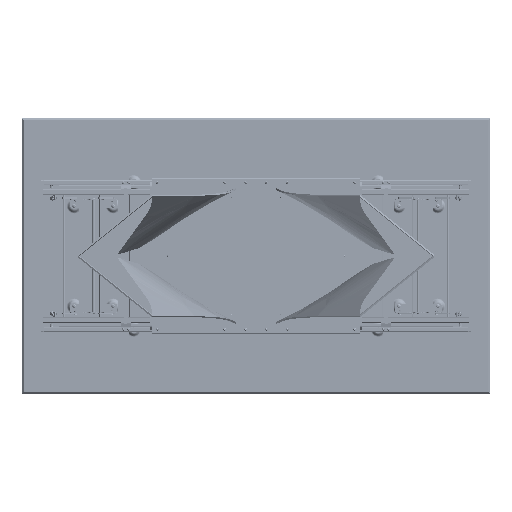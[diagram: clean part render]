
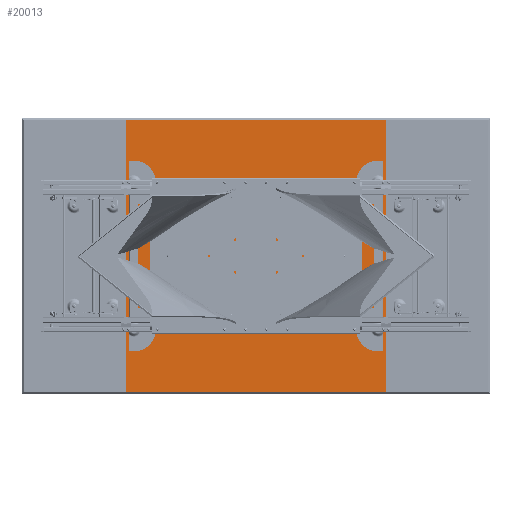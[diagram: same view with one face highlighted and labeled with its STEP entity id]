
A CAD part, front view. The second image highlights one B-rep face of the part: STEP entity #20013.
In plain terms, the highlighted planar face has unit normal (0, -1, 0).
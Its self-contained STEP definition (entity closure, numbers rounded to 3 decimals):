
#874 = DIRECTION ( 'NONE',  ( 0., 1., 0. ) ) ;
#4135 = ORIENTED_EDGE ( 'NONE', *, *, #11579, .F. ) ;
#5676 = ORIENTED_EDGE ( 'NONE', *, *, #61565, .T. ) ;
#10486 = VECTOR ( 'NONE', #23468, 1000. ) ;
#11579 = EDGE_CURVE ( 'NONE', #34236, #45890, #47518, .T. ) ;
#13942 = ORIENTED_EDGE ( 'NONE', *, *, #49427, .T. ) ;
#14026 = VERTEX_POINT ( 'NONE', #29046 ) ;
#17615 = LINE ( 'NONE', #36406, #10486 ) ;
#20013 = ADVANCED_FACE ( 'NONE', ( #45161 ), #39704, .F. ) ;
#23430 = VECTOR ( 'NONE', #40843, 1000. ) ;
#23468 = DIRECTION ( 'NONE',  ( -1., 0., 0. ) ) ;
#25777 = CARTESIAN_POINT ( 'NONE',  ( 900., 0., -524. ) ) ;
#28454 = EDGE_CURVE ( 'NONE', #29117, #45890, #42094, .T. ) ;
#28606 = AXIS2_PLACEMENT_3D ( 'NONE', #76532, #874, #69827 ) ;
#29046 = CARTESIAN_POINT ( 'NONE',  ( -900., 0., 524. ) ) ;
#29117 = VERTEX_POINT ( 'NONE', #62409 ) ;
#32024 = DIRECTION ( 'NONE',  ( 0., 0., -1. ) ) ;
#34236 = VERTEX_POINT ( 'NONE', #42783 ) ;
#35800 = CARTESIAN_POINT ( 'NONE',  ( 0., 0., -524. ) ) ;
#36406 = CARTESIAN_POINT ( 'NONE',  ( -900., 0., 524. ) ) ;
#39704 = PLANE ( 'NONE',  #28606 ) ;
#40843 = DIRECTION ( 'NONE',  ( 0., 0., -1. ) ) ;
#42094 = LINE ( 'NONE', #35800, #72011 ) ;
#42783 = CARTESIAN_POINT ( 'NONE',  ( 900., 0., 524. ) ) ;
#43214 = VECTOR ( 'NONE', #32024, 1000. ) ;
#45161 = FACE_OUTER_BOUND ( 'NONE', #51152, .T. ) ;
#45890 = VERTEX_POINT ( 'NONE', #25777 ) ;
#47518 = LINE ( 'NONE', #59638, #23430 ) ;
#49427 = EDGE_CURVE ( 'NONE', #34236, #14026, #17615, .T. ) ;
#49617 = LINE ( 'NONE', #75124, #43214 ) ;
#51152 = EDGE_LOOP ( 'NONE', ( #5676, #53775, #4135, #13942 ) ) ;
#53775 = ORIENTED_EDGE ( 'NONE', *, *, #28454, .T. ) ;
#59638 = CARTESIAN_POINT ( 'NONE',  ( 900., 0., 530. ) ) ;
#61565 = EDGE_CURVE ( 'NONE', #14026, #29117, #49617, .T. ) ;
#62409 = CARTESIAN_POINT ( 'NONE',  ( -900., 0., -524. ) ) ;
#67568 = DIRECTION ( 'NONE',  ( 1., 0., 0. ) ) ;
#69827 = DIRECTION ( 'NONE',  ( 0., 0., 1. ) ) ;
#72011 = VECTOR ( 'NONE', #67568, 1000. ) ;
#75124 = CARTESIAN_POINT ( 'NONE',  ( -900., 0., 530. ) ) ;
#76532 = CARTESIAN_POINT ( 'NONE',  ( 0., 0., 0. ) ) ;
